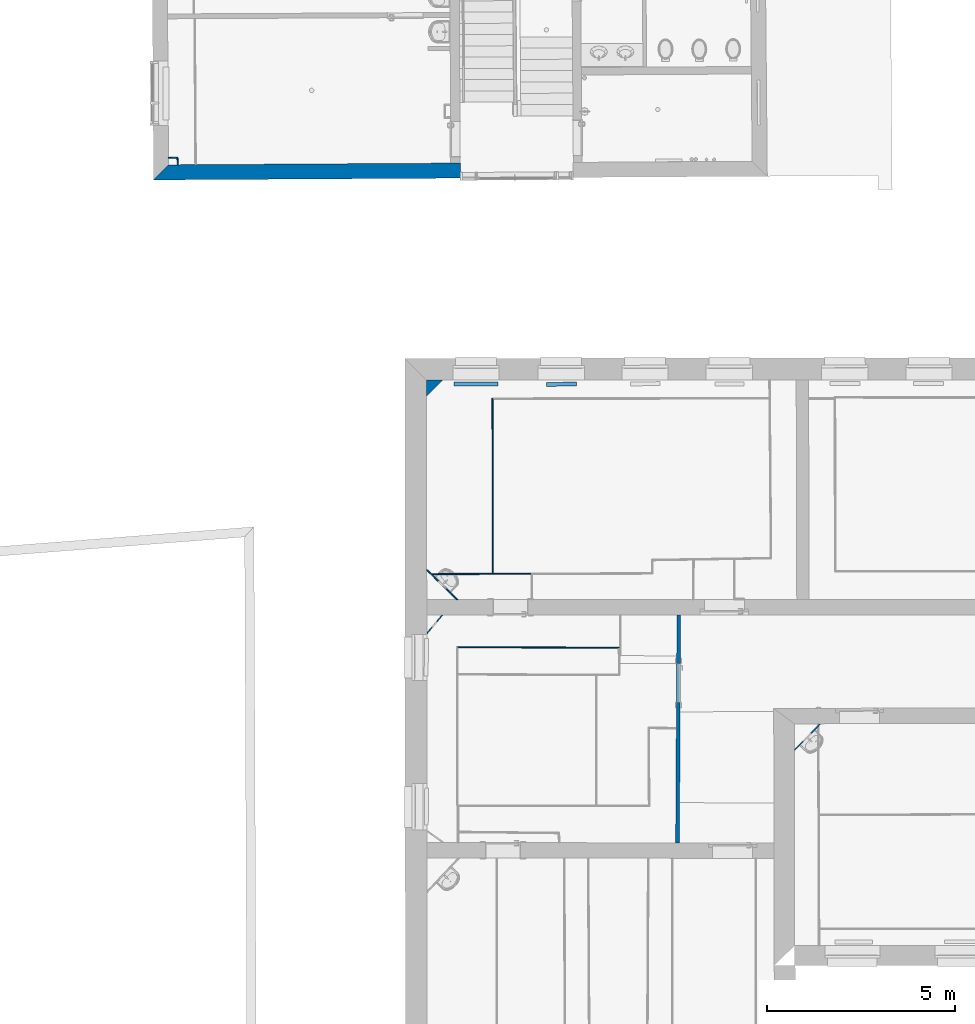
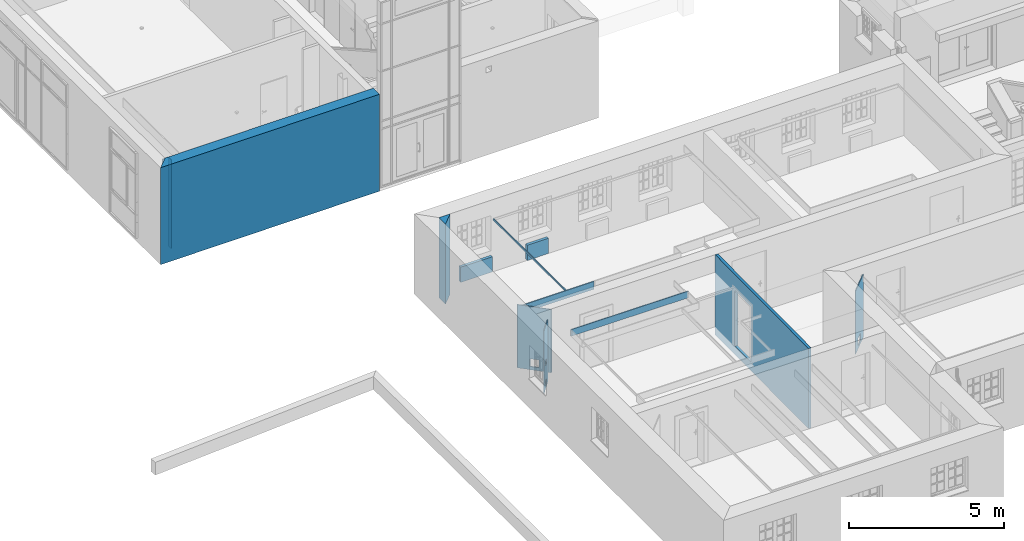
# One storey, part 23 of 196: 13 walls, 5 openings.
"""IFC2X3 building model written with IfcOpenShell, lengths in metres."""

from ifc_helpers import new_model, entity, si_unit, converted_unit, derived_unit, money_unit, direction, frame, origin_with_axes, origin_2d_with_axis, place, context, subcontext, project, spatial, polyline, rectangle, outline, extrude, material, layer, layer_set, layer_usage, type_object, element, save


model = new_model("IFC2X3")

# Units and contexts
model_context = context("Model", 3, precision=1e-05, world=origin_with_axes(), true_north=direction((0.0, 1.0)))
body_context = subcontext(model_context, "Body", "Model", "MODEL_VIEW")
ifc_project = project(units=[si_unit("LENGTHUNIT", "METRE"), si_unit("AREAUNIT", "SQUARE_METRE"), si_unit("VOLUMEUNIT", "CUBIC_METRE"), converted_unit("PLANEANGLEUNIT", "DEGREE", entity("IfcPlaneAngleMeasure", 0.0174532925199), si_unit("PLANEANGLEUNIT", "RADIAN"), dimensions=[0, 0, 0, 0, 0, 0, 0]), money_unit("EUR"), converted_unit("TIMEUNIT", "Year", entity("IfcTimeMeasure", 31556926.0), si_unit("TIMEUNIT", "SECOND"), dimensions=[0, 0, 1, 0, 0, 0, 0]), si_unit("MASSUNIT", "GRAM", prefix="KILO"), si_unit("THERMODYNAMICTEMPERATUREUNIT", "DEGREE_CELSIUS"), si_unit("LUMINOUSINTENSITYUNIT", "LUMEN"), si_unit("ENERGYUNIT", "JOULE", prefix="MEGA"), derived_unit("THERMALCONDUCTANCEUNIT", [(si_unit("POWERUNIT", "WATT"), 1), (si_unit("LENGTHUNIT", "METRE"), -1), (si_unit("THERMODYNAMICTEMPERATUREUNIT", "KELVIN"), -1)]), derived_unit("SPECIFICHEATCAPACITYUNIT", [(si_unit("ENERGYUNIT", "JOULE"), 1), (si_unit("MASSUNIT", "GRAM", prefix="KILO"), -1), (si_unit("THERMODYNAMICTEMPERATUREUNIT", "KELVIN"), -1)]), derived_unit("MASSDENSITYUNIT", [(si_unit("MASSUNIT", "GRAM", prefix="KILO"), 1), (si_unit("VOLUMEUNIT", "CUBIC_METRE"), -1)])], contexts=[model_context])

# Site, building, storey
site_placement = place(None, origin_with_axes())
site = spatial("IfcSite", under=ifc_project, at=site_placement, Name="Gelände", CompositionType="ELEMENT")
building_placement = place(site_placement, origin_with_axes())
building = spatial("IfcBuilding", under=site, at=building_placement, Name="Gebäude", CompositionType="ELEMENT")
storey_placement = place(building_placement, frame((0.0, 0.0, -3.0), z_axis=(0.0, 0.0, 1.0), x_axis=(1.0, 0.0, 0.0)))
storey = spatial("IfcBuildingStorey", under=building, at=storey_placement, Name="KELLERGESCHOSS", CompositionType="ELEMENT", Elevation=-3.0)

# Walls
ifc_material_1 = material(Name="05_ALLGEMEIN - TRAGENDE BAUTEILE")
ifc_layer_1 = layer(ifc_material_1, 0.3, ventilated="UNKNOWN")
ifc_layer_set_1 = layer_set([ifc_layer_1], Name="05_ALLGEMEIN - TRAGENDE BAUTEILE 0.3")
ifc_layer_usage_1 = layer_usage(ifc_layer_set_1, "AXIS2", "NEGATIVE", 0.3)
wall_type_1 = type_object("IfcWallType", Name="05_ALLGEMEIN - TRAGENDE BAUTEILE 300", PredefinedType="ELEMENTEDWALL")
wall_1_placement = place(storey_placement, frame((-28.1269384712, 24.4966947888, -0.36), z_axis=(0.0, 0.0, 1.0), x_axis=(0.702365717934, 0.711816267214, 0.0)))
element("IfcWallStandardCase", 1, at=wall_1_placement, inside=storey, type_object=wall_type_1, material=ifc_layer_usage_1, Name="Wand-030", ObjectType="ELEMENTEDWALL", context=body_context, shape_type="SweptSolid", body=[
    extrude(outline(polyline([(0.82499993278, 0.0), (1.42775919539, 0.0), (1.13134650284, 0.3), (1.12846897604, 0.3), (0.82499993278, 0.0)])), origin_with_axes(), (0.0, 0.0, 1.0), 3.15),
])
ifc_layer_2 = layer(ifc_material_1, 0.4, ventilated="UNKNOWN")
ifc_layer_set_2 = layer_set([ifc_layer_2], Name="05_ALLGEMEIN - TRAGENDE BAUTEILE 0.4")
ifc_layer_usage_2 = layer_usage(ifc_layer_set_2, "AXIS2", "NEGATIVE", 0.4)
wall_type_2 = type_object("IfcWallType", Name="05_ALLGEMEIN - TRAGENDE BAUTEILE 400", PredefinedType="ELEMENTEDWALL")
wall_2_placement = place(storey_placement, frame((-34.8146302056, 30.8412474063, 0.25), z_axis=(0.0, 0.0, 1.0), x_axis=(0.99998208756, 0.00598536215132, 0.0)))
element("IfcWallStandardCase", 2, at=wall_2_placement, inside=storey, type_object=wall_type_2, material=ifc_layer_usage_2, Name="Wand-030", ObjectType="ELEMENTEDWALL", context=body_context, shape_type="SweptSolid", body=[
    extrude(outline(polyline([(0.0, 0.0), (8.16762857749, 0.0), (8.16762857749, 0.4), (0.400048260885, 0.4), (0.0, 0.0)])), origin_with_axes(), (0.0, 0.0, 1.0), 3.81),
])

# Wall, opening
ifc_layer_3 = layer(ifc_material_1, 0.1, ventilated="UNKNOWN")
ifc_layer_set_3 = layer_set([ifc_layer_3], Name="05_ALLGEMEIN - TRAGENDE BAUTEILE 0.1")
ifc_layer_usage_3 = layer_usage(ifc_layer_set_3, "AXIS2", "POSITIVE", -0.1)
wall_type_3 = type_object("IfcWallType", Name="05_ALLGEMEIN - TRAGENDE BAUTEILE 100", PredefinedType="ELEMENTEDWALL")
wall_3_placement = place(storey_placement, frame((-20.7831778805, 19.2629593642, -0.36), z_axis=(0.0, 0.0, 1.0), x_axis=(-0.00584518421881, -0.999982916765, 0.0)))
wall_3 = element("IfcWallStandardCase", 3, at=wall_3_placement, inside=storey, type_object=wall_type_3, material=ifc_layer_usage_3, Name="Wand-037", ObjectType="ELEMENTEDWALL", context=body_context, shape_type="SweptSolid", body=[
    extrude(outline(polyline([(0.000612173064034, -0.1), (6.06612935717, -0.1), (6.06566066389, 0.0), (0.0, 0.0), (0.000612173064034, -0.1)])), origin_with_axes(), (0.0, 0.0, 1.0), 3.15),
])
opening_1_placement = place(wall_3_placement, frame((1.81115268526, 0.0, 0.340468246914), z_axis=(0.0, 0.0, 1.0), x_axis=(1.0, 0.0, 0.0)))
element("IfcOpeningElement", 4, at=opening_1_placement, cuts=wall_3, Name="Tür-022", context=body_context, shape_type="SweptSolid", body=[
    extrude(rectangle(XDim=1.03334803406, YDim=2.187668, at=origin_2d_with_axis()), frame((0.0, -0.1, 1.093834), z_axis=(0.0, 1.0, 0.0), x_axis=(1.0, 0.0, 0.0)), (0.0, 0.0, 1.0), 0.3),
])

# Walls
ifc_material_2 = material(Name="43_Gipskarton")
ifc_layer_4 = layer(ifc_material_2, 0.03, ventilated="UNKNOWN")
ifc_layer_set_4 = layer_set([ifc_layer_4], Name="43_Gipskarton 0.03")
ifc_layer_usage_4 = layer_usage(ifc_layer_set_4, "AXIS2", "NEGATIVE", 0.03)
wall_type_4 = type_object("IfcWallType", Name="43_Gipskarton 30", PredefinedType="ELEMENTEDWALL")
wall_4_placement = place(storey_placement, frame((-34.1644825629, 31.4479852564, 0.41), z_axis=(0.0, 0.0, 1.0), x_axis=(-0.999831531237, -0.0183550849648, 0.0)))
element("IfcWallStandardCase", 5, at=wall_4_placement, inside=storey, type_object=wall_type_4, material=ifc_layer_usage_4, Name="Wand-032", ObjectType="ELEMENTEDWALL", context=body_context, shape_type="SweptSolid", body=[
    extrude(outline(polyline([(0.0, 0.0), (0.253714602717, 0.0), (0.254089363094, 0.03), (0.0287372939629, 0.03), (0.0, 0.0)])), origin_with_axes(), (0.0, 0.0, 1.0), 3.49),
])
ifc_layer_usage_5 = layer_usage(ifc_layer_set_4, "AXIS2", "NEGATIVE", 0.03)
wall_5_placement = place(storey_placement, frame((-34.127468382, 30.8453603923, 0.41), z_axis=(0.0, 0.0, 1.0), x_axis=(-0.0613060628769, 0.998119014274, 0.0)))
element("IfcWallStandardCase", 6, at=wall_5_placement, inside=storey, type_object=wall_type_4, material=ifc_layer_usage_5, Name="Wand-033", ObjectType="ELEMENTEDWALL", context=body_context, shape_type="SweptSolid", body=[
    extrude(outline(polyline([(0.400613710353, 0.0), (0.603760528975, 0.0), (0.575023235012, 0.03), (0.402276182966, 0.03), (0.400613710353, 0.0)])), origin_with_axes(), (0.0, 0.0, 1.0), 3.49),
])

# Wall, openings
ifc_layer_usage_6 = layer_usage(ifc_layer_set_4, "AXIS2", "NEGATIVE", 0.03)
wall_6_placement = place(storey_placement, frame((-28.1209236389, 18.0579232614, -0.04), z_axis=(0.0, 0.0, 1.0), x_axis=(0.644265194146, 0.764802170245, 0.0)))
wall_6 = element("IfcWallStandardCase", 7, at=wall_6_placement, inside=storey, type_object=wall_type_4, material=ifc_layer_usage_6, Name="Wand-034", ObjectType="ELEMENTEDWALL", context=body_context, shape_type="SweptSolid", body=[
    extrude(outline(polyline([(0.899253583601, 0.0), (1.57333221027, 0.0), (1.5480461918, 0.03), (0.934798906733, 0.03), (0.899253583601, 0.0)])), origin_with_axes(), (0.0, 0.0, 1.0), 2.46),
])
opening_2_placement = place(wall_6_placement, frame((1.2345161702, 0.0, 0.127336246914), z_axis=(0.0, 0.0, 1.0), x_axis=(1.0, 0.0, 0.0)))
element("IfcOpeningElement", 8, at=opening_2_placement, cuts=wall_6, Name="Tür-022", context=body_context, shape_type="SweptSolid", body=[
    extrude(rectangle(XDim=0.200072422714, YDim=0.194292, at=origin_2d_with_axis()), frame((0.0, 0.03, 0.097146), z_axis=(0.0, -1.0, 0.0), x_axis=(-1.0, 0.0, 0.0)), (0.0, 0.0, 1.0), 0.09),
])
opening_3_placement = place(wall_6_placement, frame((1.23168819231, 0.0, 0.908409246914), z_axis=(0.0, 0.0, 1.0), x_axis=(1.0, 0.0, 0.0)))
element("IfcOpeningElement", 9, at=opening_3_placement, cuts=wall_6, Name="Tür-022", context=body_context, shape_type="SweptSolid", body=[
    extrude(rectangle(XDim=0.202008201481, YDim=0.196641, at=origin_2d_with_axis()), frame((0.0, 0.03, 0.0983205), z_axis=(0.0, -1.0, 0.0), x_axis=(-1.0, 0.0, 0.0)), (0.0, 0.0, 1.0), 0.09),
])

# Wall, opening
ifc_layer_usage_7 = layer_usage(ifc_layer_set_4, "AXIS2", "NEGATIVE", 0.03)
wall_7_placement = place(storey_placement, frame((-26.2901983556, 19.2614370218, -0.0458857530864), z_axis=(0.0, 0.0, 1.0), x_axis=(-0.715331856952, 0.698784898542, 0.0)))
wall_7 = element("IfcWallStandardCase", 10, at=wall_7_placement, inside=storey, type_object=wall_type_4, material=ifc_layer_usage_7, Name="Wand-034", ObjectType="ELEMENTEDWALL", context=body_context, shape_type="SweptSolid", body=[
    extrude(outline(polyline([(0.586566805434, 0.0), (1.75162438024, 0.0), (1.72226351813, 0.03), (0.617260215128, 0.03), (0.586566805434, 0.0)])), origin_with_axes(), (0.0, 0.0, 1.0), 2.48588575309),
])
opening_4_placement = place(wall_7_placement, frame((1.15977345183, 0.0, 0.1290015), z_axis=(0.0, 0.0, 1.0), x_axis=(1.0, 0.0, 0.0)))
element("IfcOpeningElement", 11, at=opening_4_placement, cuts=wall_7, Name="Tür-022", context=body_context, shape_type="SweptSolid", body=[
    extrude(rectangle(XDim=0.295992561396, YDim=0.299404, at=origin_2d_with_axis()), frame((0.0, 0.03, 0.149702), z_axis=(0.0, -1.0, 0.0), x_axis=(-1.0, 0.0, 0.0)), (0.0, 0.0, 1.0), 0.09),
])

ifc_layer_usage_8 = layer_usage(ifc_layer_set_4, "AXIS2", "NEGATIVE", 0.03)
wall_8_placement = place(storey_placement, frame((-17.7595314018, 15.6437168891, -0.0443482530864), z_axis=(0.0, 0.0, 1.0), x_axis=(0.703164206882, 0.711027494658, 0.0)))
wall_8 = element("IfcWallStandardCase", 12, at=wall_8_placement, inside=storey, type_object=wall_type_4, material=ifc_layer_usage_8, Name="Wand-034", ObjectType="ELEMENTEDWALL", context=body_context, shape_type="SweptSolid", body=[
    extrude(outline(polyline([(0.0, 0.0), (1.01758646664, 0.0), (0.98776270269, 0.03), (0.0302181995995, 0.03), (0.0, 0.0)])), origin_with_axes(), (0.0, 0.0, 1.0), 2.48434825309),
])
opening_5_placement = place(wall_8_placement, frame((0.497782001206, 0.0, 0.122599), z_axis=(0.0, 0.0, 1.0), x_axis=(1.0, 0.0, 0.0)))
element("IfcOpeningElement", 13, at=opening_5_placement, cuts=wall_8, Name="Tür-022", context=body_context, shape_type="SweptSolid", body=[
    extrude(rectangle(XDim=0.296551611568, YDim=0.294192, at=origin_2d_with_axis()), frame((0.0, -0.03, 0.147096), z_axis=(0.0, 1.0, 0.0), x_axis=(-1.0, 0.0, 0.0)), (0.0, 0.0, 1.0), 0.09),
])

# Walls
ifc_layer_usage_9 = layer_usage(ifc_layer_set_4, "AXIS2", "NEGATIVE", 0.03)
wall_9_placement = place(storey_placement, frame((-24.7641975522, 20.3740918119, 2.13), z_axis=(0.0, 0.0, 1.0), x_axis=(-0.999995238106, -0.00308605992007, 0.0)))
element("IfcWallStandardCase", 14, at=wall_9_placement, inside=storey, type_object=wall_type_4, material=ifc_layer_usage_9, Name="Wand-039", ObjectType="ELEMENTEDWALL", context=body_context, shape_type="SweptSolid", body=[
    extrude(outline(polyline([(0.0, 0.0), (2.65662284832, 0.0), (2.62610146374, 0.03), (0.0, 0.03), (0.0, 0.0)])), origin_with_axes(), (0.0, 0.0, 1.0), 0.31),
])
ifc_layer_usage_10 = layer_usage(ifc_layer_set_4, "AXIS2", "NEGATIVE", 0.0)
wall_10_placement = place(storey_placement, frame((-26.7422881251, 18.4185257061, 2.16), z_axis=(0.0, 0.0, 1.0), x_axis=(0.999995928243, -0.00285368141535, 0.0)))
element("IfcWallStandardCase", 15, at=wall_10_placement, inside=storey, type_object=wall_type_4, material=ifc_layer_usage_10, Name="Wand-044", ObjectType="ELEMENTEDWALL", context=body_context, shape_type="SweptSolid", body=[
    extrude(outline(polyline([(0.0298461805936, -0.03), (4.36149322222, -0.03), (4.33142942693, 0.0), (0.0, 0.0), (0.0298461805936, -0.03)])), origin_with_axes(), (0.0, 0.0, 1.0), 0.26),
])
ifc_layer_usage_11 = layer_usage(ifc_layer_set_4, "AXIS2", "NEGATIVE", 0.0)
wall_11_placement = place(storey_placement, frame((-25.7776631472, 25.0063994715, 2.37), z_axis=(0.0, 0.0, 1.0), x_axis=(0.00174402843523, -0.999998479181, 0.0)))
element("IfcWallStandardCase", 16, at=wall_11_placement, inside=storey, type_object=wall_type_4, material=ifc_layer_usage_11, Name="Wand-044", ObjectType="ELEMENTEDWALL", context=body_context, shape_type="SweptSolid", body=[
    extrude(outline(polyline([(-0.0300223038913, -0.03), (4.63545765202, -0.03), (4.63541739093, 0.0), (0.0, 0.0), (-0.0300223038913, -0.03)])), origin_with_axes(), (0.0, 0.0, 1.0), 0.07),
])
ifc_material_3 = material(Name="01_ALLGEMEIN - BAUTEIL")
ifc_layer_5 = layer(ifc_material_3, 0.105, ventilated="UNKNOWN")
ifc_layer_set_5 = layer_set([ifc_layer_5], Name="01_ALLGEMEIN - BAUTEIL 0.105")
ifc_layer_usage_12 = layer_usage(ifc_layer_set_5, "AXIS2", "NEGATIVE", 0.105)
wall_type_5 = type_object("IfcWallType", Name="01_ALLGEMEIN - BAUTEIL 105", PredefinedType="ELEMENTEDWALL")
wall_12_placement = place(storey_placement, frame((-26.8235420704, 25.3571785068, 0.0805299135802), z_axis=(0.0, 0.0, 1.0), x_axis=(0.999999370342, 0.00112219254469, 0.0)))
element("IfcWallStandardCase", 17, at=wall_12_placement, inside=storey, type_object=wall_type_5, material=ifc_layer_usage_12, Name="Wand-036", ObjectType="ELEMENTEDWALL", context=body_context, shape_type="SweptSolid", body=[
    extrude(outline(polyline([(0.0, 0.0), (1.17830792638, 0.0), (1.17830792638, 0.105), (0.0, 0.105), (0.0, 0.0)])), origin_with_axes(), (0.0, 0.0, 1.0), 0.597873),
])
ifc_layer_usage_13 = layer_usage(ifc_layer_set_5, "AXIS2", "NEGATIVE", 0.105)
wall_13_placement = place(storey_placement, frame((-24.3550661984, 25.3478609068, 0.0805299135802), z_axis=(0.0, 0.0, 1.0), x_axis=(0.999961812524, 0.00873919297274, 0.0)))
element("IfcWallStandardCase", 18, at=wall_13_placement, inside=storey, type_object=wall_type_5, material=ifc_layer_usage_13, Name="Wand-037", ObjectType="ELEMENTEDWALL", context=body_context, shape_type="SweptSolid", body=[
    extrude(outline(polyline([(0.0, 0.0), (0.797035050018, 0.0), (0.797035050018, 0.105), (0.0, 0.105), (0.0, 0.0)])), origin_with_axes(), (0.0, 0.0, 1.0), 0.597873),
])

save(model, "model.ifc")
